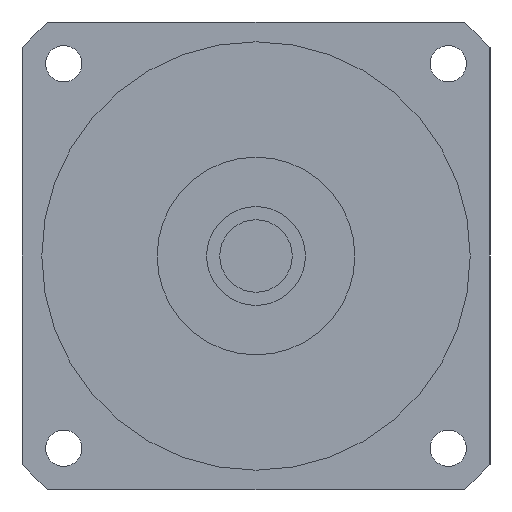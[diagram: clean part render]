
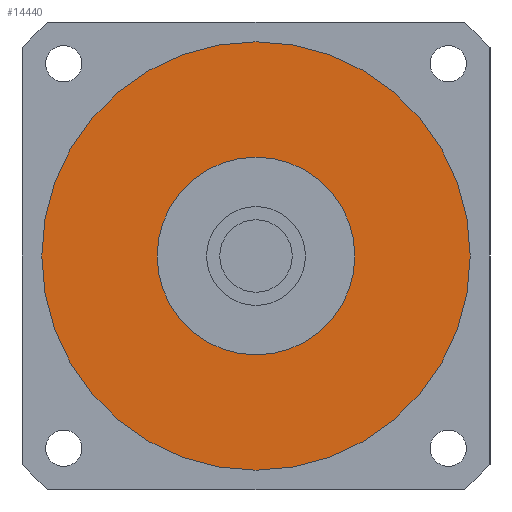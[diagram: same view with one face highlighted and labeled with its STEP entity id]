
A CAD part, left-side view. The second image highlights one B-rep face of the part: STEP entity #14440.
In plain terms, the highlighted planar face has unit normal (-1, 0, 0) as drawn and (0, 0, -1) by its records, which use the part's own axes.
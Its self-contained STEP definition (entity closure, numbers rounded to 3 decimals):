
#8930=CARTESIAN_POINT('',(30.,0.,-61.1));
#8940=VERTEX_POINT('',#8930);
#8970=CARTESIAN_POINT('',(0.,0.,
-61.1));
#8980=DIRECTION('',(0.,0.,1.));
#8990=DIRECTION('',(0.,1.,0.));
#9000=AXIS2_PLACEMENT_3D('',#8970,#8980,#8990);
#9010=CIRCLE('',#9000,30.);
#9020=CARTESIAN_POINT('',(0.,30.,-61.1));
#9030=VERTEX_POINT('',#9020);
#9040=EDGE_CURVE('',#8940,#9030,#9010,.T.);
#9060=CARTESIAN_POINT('',(-30.,0.,-61.1));
#9070=VERTEX_POINT('',#9060);
#9080=EDGE_CURVE('',#9030,#9070,#9010,.T.);
#13990=CARTESIAN_POINT('',(65.,0.,-61.1));
#14000=VERTEX_POINT('',#13990);
#14090=CARTESIAN_POINT('',(-65.,0.,-61.1));
#14100=VERTEX_POINT('',#14090);
#14130=CARTESIAN_POINT('',(0.,0.,
-61.1));
#14140=DIRECTION('',(0.,0.,1.));
#14150=DIRECTION('',(0.,1.,0.));
#14160=AXIS2_PLACEMENT_3D('',#14130,#14140,#14150);
#14170=CIRCLE('',#14160,65.);
#14180=CARTESIAN_POINT('',(0.,65.,-61.1));
#14190=VERTEX_POINT('',#14180);
#14200=EDGE_CURVE('',#14190,#14100,#14170,.T.);
#14220=EDGE_CURVE('',#14000,#14190,#14170,.T.);
#14270=CARTESIAN_POINT('',(0.,0.,
-61.1));
#14280=DIRECTION('',(0.,0.,1.));
#14290=DIRECTION('',(-1.,0.,0.));
#14300=AXIS2_PLACEMENT_3D('',#14270,#14280,#14290);
#14310=PLANE('',#14300);
#14320=ORIENTED_EDGE('',*,*,#14200,.F.);
#14330=EDGE_CURVE('',#14100,#14000,#14170,.T.);
#14340=ORIENTED_EDGE('',*,*,#14330,.F.);
#14350=ORIENTED_EDGE('',*,*,#14220,.F.);
#14360=EDGE_LOOP('',(#14350,#14340,#14320));
#14370=FACE_OUTER_BOUND('',#14360,.T.);
#14380=EDGE_CURVE('',#9070,#8940,#9010,.T.);
#14390=ORIENTED_EDGE('',*,*,#14380,.T.);
#14400=ORIENTED_EDGE('',*,*,#9080,.T.);
#14410=ORIENTED_EDGE('',*,*,#9040,.T.);
#14420=EDGE_LOOP('',(#14410,#14400,#14390));
#14430=FACE_BOUND('',#14420,.T.);
#14440=ADVANCED_FACE('',(#14370,#14430),#14310,.F.);
